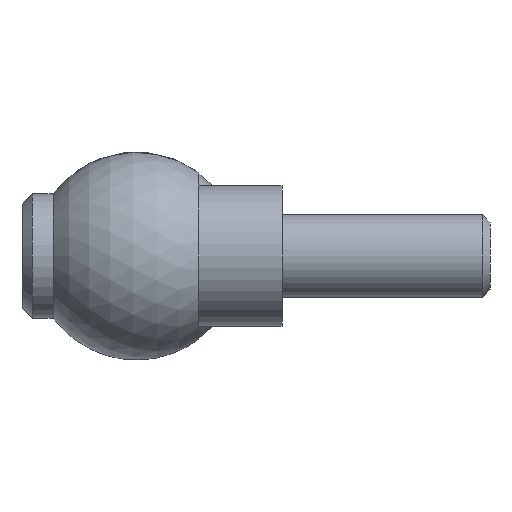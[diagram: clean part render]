
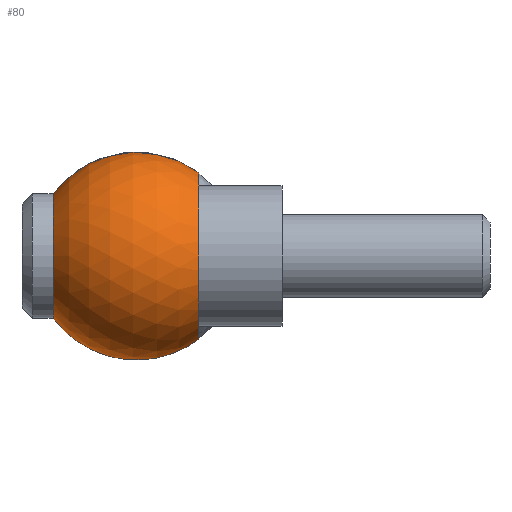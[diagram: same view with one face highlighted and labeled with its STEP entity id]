
A CAD part, left-side view. The second image highlights one B-rep face of the part: STEP entity #80.
In plain terms, the highlighted spherical face has radius 10 mm.
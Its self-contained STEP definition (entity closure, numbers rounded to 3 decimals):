
#80 = ADVANCED_FACE( '', ( #104, #105, #106 ), #107, .T. );
#104 = FACE_OUTER_BOUND( '', #142, .T. );
#105 = FACE_BOUND( '', #143, .T. );
#106 = FACE_OUTER_BOUND( '', #144, .T. );
#107 = SPHERICAL_SURFACE( '', #145, 10. );
#142 = EDGE_LOOP( '', ( #190 ) );
#143 = EDGE_LOOP( '', ( #191 ) );
#144 = EDGE_LOOP( '', ( #192 ) );
#145 = AXIS2_PLACEMENT_3D( '', #193, #194, #195 );
#190 = ORIENTED_EDGE( '', *, *, #235, .T. );
#191 = ORIENTED_EDGE( '', *, *, #236, .T. );
#192 = ORIENTED_EDGE( '', *, *, #234, .F. );
#193 = CARTESIAN_POINT( '', ( 0., 14., 0. ) );
#194 = DIRECTION( '', ( 0., -1., 0. ) );
#195 = DIRECTION( '', ( 1., 0., 0. ) );
#234 = EDGE_CURVE( '', #252, #252, #253, .T. );
#235 = EDGE_CURVE( '', #254, #254, #255, .T. );
#236 = EDGE_CURVE( '', #256, #256, #257, .T. );
#252 = VERTEX_POINT( '', #276 );
#253 = CIRCLE( '', #277, 8. );
#254 = VERTEX_POINT( '', #278 );
#255 = CIRCLE( '', #279, 6. );
#256 = VERTEX_POINT( '', #280 );
#257 = CIRCLE( '', #281, 4.25 );
#276 = CARTESIAN_POINT( '', ( 0., 8., -8. ) );
#277 = AXIS2_PLACEMENT_3D( '', #305, #306, #307 );
#278 = CARTESIAN_POINT( '', ( 0., 22., -6. ) );
#279 = AXIS2_PLACEMENT_3D( '', #308, #309, #310 );
#280 = CARTESIAN_POINT( '', ( 9.052, 14., 4.25 ) );
#281 = AXIS2_PLACEMENT_3D( '', #311, #312, #313 );
#305 = CARTESIAN_POINT( '', ( 0., 8., 0. ) );
#306 = DIRECTION( '', ( 0., -1., 0. ) );
#307 = DIRECTION( '', ( 0., 0., -1. ) );
#308 = CARTESIAN_POINT( '', ( 0., 22., 0. ) );
#309 = DIRECTION( '', ( 0., -1., 0. ) );
#310 = DIRECTION( '', ( 0., 0., -1. ) );
#311 = CARTESIAN_POINT( '', ( 9.052, 14., 0. ) );
#312 = DIRECTION( '', ( -1., 0., 0. ) );
#313 = DIRECTION( '', ( 0., 0., 1. ) );
